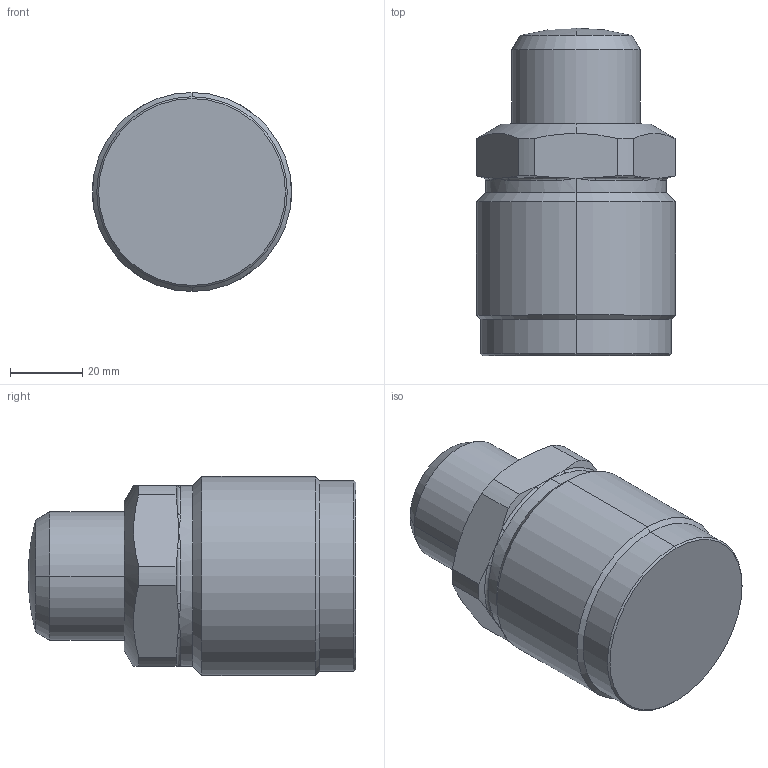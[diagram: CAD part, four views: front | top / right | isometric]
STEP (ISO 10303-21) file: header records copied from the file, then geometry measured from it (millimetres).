
FILE_DESCRIPTION((' '),'2;1');
FILE_NAME( 'CMC25-20R.x_t.stp', '2024-08-27T13:58:40', (' '), ('--- Datakit www.datakit.com---'), ' Datakit CrossCadWare V2024.1 Dec 21 2023', 'Mastercam 2025', ' ');
FILE_SCHEMA(('AUTOMOTIVE_DESIGN { 1 0 10303 214 1 1 1 1 }'));
Length unit declared in the file: millimetre
Products named in the file (1): CMC25-20R
Bounding box: 55 x 90.5 x 55 mm (x, y, z)
Volume: 147473.5 mm3; surface area: 21794.5 mm2
Topology: 2 solids, 2 shells, 62 faces, 155 edges, 84 vertices
Faces by surface type: cylinder 16, cone 16, bspline 12, plane 10, torus 6, sphere 2
Entity records: 3813 total; most frequent: CARTESIAN_POINT 2452, ORIENTED_EDGE 282, DIRECTION 264, EDGE_CURVE 141, AXIS2_PLACEMENT_3D 116, VERTEX_POINT 84, CIRCLE 65, EDGE_LOOP 63
